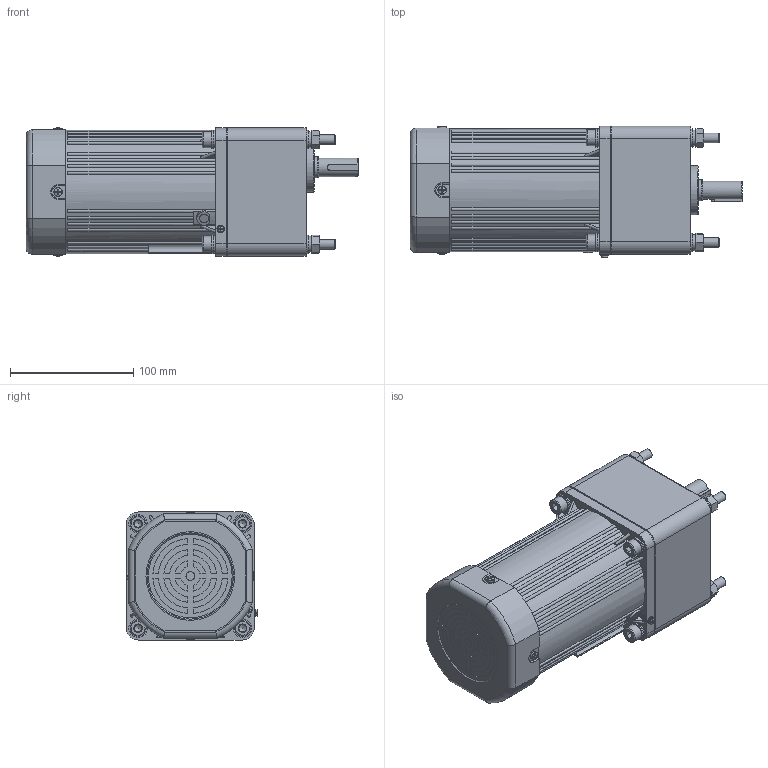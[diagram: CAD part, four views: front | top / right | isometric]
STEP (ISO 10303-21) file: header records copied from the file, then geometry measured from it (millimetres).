
FILE_DESCRIPTION(/* description */ (''),/* implementation_level */ '2;1');
FILE_NAME(/* name */ '6RK160-200CC·F#6GU3-750K-C·15T.stp',/* time_stamp */ '2024-05-29T18:36:10+08:00',/* author */ (''),/* organization */ (''),/* preprocessor_version */ 'ST-DEVELOPER v18.102',/* originating_system */ 'SIEMENS PLM Software NX 2027',/* authorisation */ '');
FILE_SCHEMA (('AP203_CONFIGURATION_CONTROLLED_3D_DESIGN_OF_MECHANICAL_PARTS_AND_ASSEMBLIES_MIM_LF { 1 0 10303 403 2 1 2}'));
Products named in the file (1): A0_objects
Bounding box: 269.5 x 106.83 x 104.06 mm (x, y, z)
Volume: 2297975.7 mm3; surface area: 353637.3 mm2
Topology: 32 solids, 32 shells, 1828 faces, 4771 edges, 3098 vertices
Faces by surface type: plane 742, cylinder 475, bspline 310, cone 195, torus 78, sphere 28
Full cylindrical faces by diameter (mm): 2.6 x2, 2.7 x1, 3 x17, 3.2 x2, 3.5 x4, 3.6 x4, 4 x5, 4.55 x2, 5.1 x2, 5.15 x2, 6 x2, 6.8 x8, 6.985 x4, 7 x2, 7.5 x2, 7.76 x4, 8.4 x8, 8.5 x4, 9 x13, 9.3 x1, 13 x5, 14 x9, 15 x10, 15.5 x2, 17 x1, 17.3 x1, 19 x2, 21 x1, 28 x1, 30 x3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
Entity records: 58663 total; most frequent: CARTESIAN_POINT 15560, ORIENTED_EDGE 8662, DIRECTION 7735, EDGE_CURVE 4331, AXIS2_PLACEMENT_3D 3098, VERTEX_POINT 2952, EDGE_LOOP 2302, ADVANCED_FACE 1828
